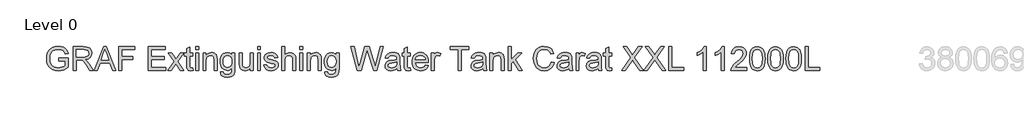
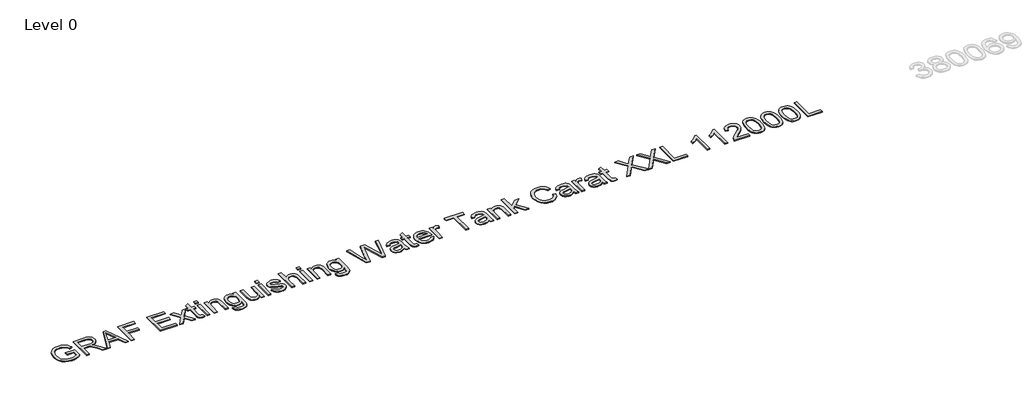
# One storey, part 21 of 37: 1 proxy.
"""IFC4 building model written with IfcOpenShell, lengths in millimetres."""

from ifc_helpers import new_model, si_unit, origin, origin_with_axes, place, context, project, spatial, polyline, outline, extrude, element, save

model = new_model("IFC4")

# Units and contexts
model_context = context("Model", 3, world=origin())
ifc_project = project(units=[si_unit("LENGTHUNIT", "METRE", prefix="MILLI")], contexts=[model_context])

# Site, building, storey
site = spatial("IfcSite", under=ifc_project)
building = spatial("IfcBuilding", under=site)
storey = spatial("IfcBuildingStorey", under=building, Name="Level 0", Elevation=0.0)

# Proxy
placement = place(None, origin())
element("IfcBuildingElementProxy", 1, Name="300mm Arial", ObjectType="300mm Arial", at=placement, inside=storey, context=model_context, shape_type="SweptSolid", body=[
    extrude(outline(polyline([(16759.0059613, -33583.2545597), (16759.0059613, -33545.5834434), (16881.4370893, -33545.5834434), (16881.4370893, -33658.2289103), (16851.6846329, -33678.9222726), (16820.9940775, -33693.7663111), (16789.4389993, -33702.7058436), (16757.0929749, -33705.6856877), (16714.8325307, -33700.949207), (16676.6371825, -33686.739765), (16644.9073605, -33663.5540022), (16622.0434945, -33631.8885595), (16608.2203285, -33593.9047435), (16603.6126065, -33551.7638609), (16608.2019344, -33509.3194757), (16621.9699181, -33469.8365406), (16644.3463404, -33436.717964), (16674.7609844, -33413.3666543), (16711.8067013, -33399.5158972), (16754.0763425, -33394.8989782), (16785.1071888, -33397.5753197), (16813.0110382, -33405.6043443), (16836.5095006, -33418.4066377), (16854.3241862, -33435.4027859), (16867.5035587, -33457.4113262), (16877.0960817, -33485.2507962), (16842.3680214, -33495.0364573), (16834.6149083, -33475.1800266), (16825.1879322, -33460.1980323), (16812.7167326, -33448.9040551), (16795.830949, -33440.1116754), (16775.6986068, -33434.4554897), (16753.4877313, -33432.5700945), (16727.4876713, -33434.6026425), (16705.2584018, -33440.7002866), (16686.8826961, -33450.0996716), (16672.4433278, -33462.0374423), (16653.0559467, -33491.0633317), (16644.2267788, -33519.50061), (16641.2837228, -33550.2187566), (16644.824587, -33586.2436009), (16655.4471796, -33615.8856927), (16672.8296039, -33638.9334997), (16696.6499631, -33655.1754898), (16724.5262213, -33664.804801), (16754.0763425, -33668.0145714), (16780.168373, -33665.5957473), (16805.6166101, -33658.3392749), (16827.7171209, -33648.3420817), (16843.765973, -33637.701095), (16843.765973, -33583.2545597), (16759.0059613, -33583.2545597)])), origin_with_axes(), (0.0, 0.0, 1.0), 10.0),
    extrude(outline(polyline([(16942.6526533, -33700.9767982), (16942.6526533, -33399.6078677), (17072.5149976, -33399.6078677), (17107.4178018, -33401.6404158), (17132.8108566, -33407.7380598), (17151.3705032, -33418.9952489), (17165.7730833, -33436.5064318), (17175.0161185, -33458.2206666), (17178.0971302, -33482.087011), (17172.9927675, -33511.7750881), (17157.6796794, -33536.3863935), (17146.0799003, -33546.4157764), (17131.6980135, -33554.4310054), (17094.5879173, -33564.4190016), (17115.9986494, -33580.532233), (17146.532855, -33619.3069952), (17196.7855355, -33700.9767982), (17153.0075781, -33700.9767982), (17113.7913574, -33638.5104354), (17085.4644438, -33597.1604991), (17065.5620278, -33577.6259652), (17047.6461747, -33570.4522663), (17025.7939842, -33569.1278911), (16980.3237696, -33569.1278911), (16980.3237696, -33700.9767982), (16942.6526533, -33700.9767982)]), holes=[polyline([(16980.3237696, -33531.4567748), (17064.6423229, -33531.4567748), (17088.8581552, -33530.1232026), (17107.6477281, -33526.1224859), (17121.7927908, -33519.1879103), (17132.0750926, -33509.0527613), (17138.3382835, -33496.7930938), (17140.4260139, -33483.4849626), (17136.4436913, -33465.109257), (17124.4967235, -33450.3020067), (17103.941317, -33440.5347397), (17074.1336783, -33437.278984), (16980.3237696, -33437.278984), (16980.3237696, -33531.4567748)])]), origin_with_axes(), (0.0, 0.0, 1.0), 10.0),
    extrude(outline(polyline([(17208.9256414, -33700.9767982), (17329.2230538, -33399.6078677), (17361.3023638, -33399.6078677), (17481.5997762, -33700.9767982), (17441.7949443, -33700.9767982), (17407.2876132, -33606.7990074), (17283.164228, -33606.7990074), (17248.7304732, -33700.9767982), (17208.9256414, -33700.9767982)]), holes=[polyline([(17296.996591, -33569.1278911), (17393.5288265, -33569.1278911), (17366.3791353, -33495.0364573), (17345.2627088, -33437.278984), (17326.500727, -33488.5617342), (17296.996591, -33569.1278911)])]), origin_with_axes(), (0.0, 0.0, 1.0), 10.0),
    extrude(outline(polyline([(17521.8460665, -33700.9767982), (17521.8460665, -33399.6078677), (17724.3283166, -33399.6078677), (17724.3283166, -33437.278984), (17559.5171828, -33437.278984), (17559.5171828, -33526.7478853), (17700.7838689, -33526.7478853), (17700.7838689, -33564.4190016), (17559.5171828, -33564.4190016), (17559.5171828, -33700.9767982), (17521.8460665, -33700.9767982)])), origin_with_axes(), (0.0, 0.0, 1.0), 10.0),
    extrude(outline(polyline([(17893.84834, -33700.9767982), (17893.84834, -33399.6078677), (18110.4572587, -33399.6078677), (18110.4572587, -33437.278984), (17931.5194563, -33437.278984), (17931.5194563, -33526.7478853), (18101.0394797, -33526.7478853), (18101.0394797, -33564.4190016), (17931.5194563, -33564.4190016), (17931.5194563, -33663.3056819), (18115.1661483, -33663.3056819), (18115.1661483, -33700.9767982), (17893.84834, -33700.9767982)])), origin_with_axes(), (0.0, 0.0, 1.0), 10.0),
    extrude(outline(polyline([(18143.4194855, -33700.9767982), (18223.9120661, -33589.7292828), (18148.1283751, -33479.6589899), (18193.4514369, -33479.6589899), (18230.0189072, -33532.6339972), (18247.0886318, -33557.6499729), (18261.877488, -33537.1957339), (18303.5217298, -33479.6589899), (18348.8447916, -33479.6589899), (18269.2351279, -33589.7292828), (18345.9017357, -33700.9767982), (18300.5786739, -33700.9767982), (18254.4462717, -33634.0958515), (18245.9849858, -33621.8821692), (18188.7425473, -33700.9767982), (18143.4194855, -33700.9767982)])), origin_with_axes(), (0.0, 0.0, 1.0), 10.0),
    extrude(outline(polyline([(18458.9150846, -33669.5596758), (18463.6239741, -33702.0804442), (18435.4442133, -33705.6856877), (18417.3628132, -33704.1221892), (18403.8799381, -33699.4316938), (18394.3517944, -33692.2028126), (18388.1345887, -33683.0241568), (18384.7132861, -33667.2604133), (18383.572852, -33640.276269), (18383.572852, -33517.3301062), (18355.3195147, -33517.3301062), (18355.3195147, -33479.6589899), (18383.572852, -33479.6589899), (18383.572852, -33425.8746422), (18421.2439683, -33403.7281461), (18421.2439683, -33479.6589899), (18458.9150846, -33479.6589899), (18458.9150846, -33517.3301062), (18421.2439683, -33517.3301062), (18421.2439683, -33639.172623), (18423.230531, -33658.5967923), (18429.668466, -33665.4761856), (18442.5075476, -33668.0145714), (18458.9150846, -33669.5596758)])), origin_with_axes(), (0.0, 0.0, 1.0), 10.0),
    extrude(outline(polyline([(18496.5862009, -33437.278984), (18496.5862009, -33399.6078677), (18534.2573172, -33399.6078677), (18534.2573172, -33437.278984), (18496.5862009, -33437.278984)])), origin_with_axes(), (0.0, 0.0, 1.0), 10.0),
    extrude(outline(polyline([(18496.5862009, -33700.9767982), (18496.5862009, -33479.6589899), (18534.2573172, -33479.6589899), (18534.2573172, -33700.9767982), (18496.5862009, -33700.9767982)])), origin_with_axes(), (0.0, 0.0, 1.0), 10.0),
    extrude(outline(polyline([(18590.7639916, -33700.9767982), (18590.7639916, -33479.6589899), (18628.435108, -33479.6589899), (18628.435108, -33510.5610775), (18641.5225099, -33494.981275), (18657.2402682, -33483.8528446), (18675.5883827, -33477.1757864), (18696.5668535, -33474.9501003), (18715.1356972, -33476.7435251), (18732.1410424, -33482.1237992), (18746.3228933, -33490.4195382), (18756.4212541, -33500.9593574), (18767.7152313, -33528.6608716), (18769.7017941, -33565.0811892), (18769.7017941, -33700.9767982), (18732.0306778, -33700.9767982), (18732.0306778, -33570.1579607), (18727.6896703, -33536.8278519), (18721.6839967, -33526.9042351), (18712.3489911, -33519.2063044), (18700.3836292, -33514.2674886), (18686.4868868, -33512.6212166), (18664.4231641, -33516.3184307), (18645.6151971, -33527.4100729), (18638.0989081, -33536.4645685), (18632.7301302, -33548.8391991), (18628.435108, -33583.5488653), (18628.435108, -33700.9767982), (18590.7639916, -33700.9767982)])), origin_with_axes(), (0.0, 0.0, 1.0), 10.0),
    extrude(outline(polyline([(18812.0817999, -33719.8123563), (18849.7529163, -33724.5212459), (18853.9099828, -33736.2934697), (18861.9665985, -33744.3868736), (18877.8039184, -33750.6776557), (18898.5340688, -33752.7745831), (18920.6437767, -33750.4017442), (18937.0881019, -33743.2832276), (18948.4924438, -33731.8788858), (18955.4822017, -33716.6485712), (18958.0573756, -33672.7234609), (18945.5217966, -33685.084296), (18931.5330838, -33693.9134639), (18916.091237, -33699.2109646), (18899.1962564, -33700.9767982), (18878.5419816, -33698.9212575), (18860.3571148, -33692.7546356), (18844.6416558, -33682.4769323), (18831.3956047, -33668.0881478), (18820.8856759, -33650.8252852), (18813.378584, -33631.9253477), (18808.8743288, -33611.3883353), (18807.3729104, -33589.214248), (18810.067646, -33558.7996041), (18818.1518529, -33530.8313754), (18831.3404224, -33507.1305779), (18849.3482461, -33489.5182274), (18871.5591215, -33478.5921321), (18897.3568464, -33474.9501003), (18914.9737955, -33477.0102395), (18930.9628667, -33483.190657), (18945.3240601, -33493.4913529), (18958.0573756, -33507.9123271), (18958.0573756, -33479.6589899), (18995.7284919, -33479.6589899), (18995.7284919, -33670.7368982), (18993.153318, -33714.8551464), (18985.4277961, -33743.908627), (18972.1196649, -33763.1764465), (18952.7966631, -33777.9377116), (18927.881855, -33787.3187024), (18897.7983048, -33790.4456994), (18862.7483477, -33786.0403125), (18835.148001, -33772.8241518), (18824.7530354, -33762.9028343), (18817.44368, -33750.7604292), (18813.2199349, -33736.3969365), (18812.0817999, -33719.8123563)]), holes=[polyline([(18845.0440267, -33586.6390741), (18849.0631375, -33621.1923905), (18861.1204699, -33644.9483703), (18879.2478552, -33658.716354), (18901.4771248, -33663.3056819), (18923.5408474, -33658.7439451), (18941.7602032, -33645.0587349), (18953.9830825, -33621.6062577), (18958.0573756, -33587.7427201), (18953.8635209, -33555.0839959), (18941.2819567, -33531.5671394), (18922.7958864, -33517.3576973), (18900.8885136, -33512.6212166), (18879.3766139, -33517.2841209), (18861.3411991, -33531.2728338), (18849.1183198, -33554.4402024), (18845.0440267, -33586.6390741)])]), origin_with_axes(), (0.0, 0.0, 1.0), 10.0),
    extrude(outline(polyline([(19193.5018525, -33700.9767982), (19193.5018525, -33662.9377999), (19179.8718246, -33681.6400008), (19163.9977165, -33694.9987158), (19145.8795283, -33703.0139447), (19125.5172598, -33705.6856877), (19107.1691453, -33703.8094895), (19090.0902237, -33698.180895), (19075.76122, -33689.7196091), (19065.6628592, -33679.3453369), (19054.4424584, -33651.6070344), (19052.2351664, -33616.5846685), (19052.2351664, -33479.6589899), (19089.9062827, -33479.6589899), (19089.9062827, -33598.8527563), (19092.1871511, -33637.2596366), (19097.6777899, -33650.0711271), (19107.0863719, -33659.8108029), (19119.7874978, -33665.9636293), (19135.1557681, -33668.0145714), (19151.4069552, -33665.917644), (19166.6096787, -33659.6268619), (19179.1452577, -33649.7216392), (19187.3950114, -33636.78139), (19191.9751423, -33619.0586749), (19193.5018525, -33594.8060544), (19193.5018525, -33479.6589899), (19231.1729689, -33479.6589899), (19231.1729689, -33700.9767982), (19193.5018525, -33700.9767982)])), origin_with_axes(), (0.0, 0.0, 1.0), 10.0),
    extrude(outline(polyline([(19282.9707538, -33437.278984), (19282.9707538, -33399.6078677), (19320.6418701, -33399.6078677), (19320.6418701, -33437.278984), (19282.9707538, -33437.278984)])), origin_with_axes(), (0.0, 0.0, 1.0), 10.0),
    extrude(outline(polyline([(19282.9707538, -33700.9767982), (19282.9707538, -33479.6589899), (19320.6418701, -33479.6589899), (19320.6418701, -33700.9767982), (19282.9707538, -33700.9767982)])), origin_with_axes(), (0.0, 0.0, 1.0), 10.0),
    extrude(outline(polyline([(19363.0218759, -33635.0523446), (19400.6929922, -33630.3434551), (19406.6342865, -33646.4566865), (19418.1305988, -33658.3024867), (19435.2555057, -33665.5865502), (19458.0825835, -33668.0145714), (19480.6337498, -33665.7888853), (19496.4894638, -33659.1118271), (19505.8704547, -33649.4365307), (19508.9974516, -33638.2161298), (19505.8520606, -33628.6144097), (19496.4158874, -33621.293558), (19457.6411251, -33610.5514038), (19400.9137214, -33592.1205158), (19386.5571266, -33582.8590866), (19376.1552632, -33570.5994191), (19369.8368899, -33556.1232626), (19367.7307655, -33540.2123663), (19369.4230226, -33525.6166481), (19374.4997942, -33512.1429701), (19382.5012276, -33500.324761), (19392.9674703, -33490.6954497), (19416.9165882, -33479.5486253), (19449.326992, -33474.9501003), (19473.846327, -33476.7987074), (19495.1650886, -33482.3445284), (19512.3083896, -33491.0449376), (19524.3013426, -33502.357309), (19532.2475937, -33517.118574), (19537.2507888, -33536.1656643), (19499.5796725, -33540.8745539), (19494.8247977, -33529.0195566), (19485.4162157, -33520.0892211), (19471.261956, -33514.4882178), (19452.270048, -33512.6212166), (19430.6385866, -33514.4054443), (19416.2176124, -33519.7581274), (19408.1058144, -33527.4836493), (19405.4018818, -33536.3863935), (19409.8900421, -33547.349277), (19423.9431343, -33555.6634101), (19456.3903263, -33563.6832376), (19511.6829902, -33581.4151497), (19526.2879054, -33589.8948297), (19537.3611534, -33601.5015067), (19544.3417143, -33616.2719688), (19546.6685679, -33634.2430043), (19543.9370441, -33652.821045), (19535.7424727, -33670.2954398), (19522.3975533, -33685.2958281), (19504.2149857, -33696.4518496), (19482.2524306, -33703.3772282), (19457.5675487, -33705.6856877), (19419.5837327, -33701.2343156), (19391.8638243, -33687.8801992), (19373.35936, -33665.7704912), (19363.0218759, -33635.0523446)])), origin_with_axes(), (0.0, 0.0, 1.0), 10.0),
    extrude(outline(polyline([(19589.0485738, -33700.9767982), (19589.0485738, -33399.6078677), (19626.7196901, -33399.6078677), (19626.7196901, -33510.4139247), (19640.5566516, -33494.8985015), (19656.0950674, -33483.8160564), (19673.3349374, -33477.1665894), (19692.2762616, -33474.9501003), (19715.029763, -33477.3689245), (19734.5826911, -33484.6253968), (19749.9785526, -33496.1493003), (19760.2608543, -33511.3704179), (19766.0549957, -33532.2845093), (19767.9863762, -33560.8873344), (19767.9863762, -33700.9767982), (19730.3152599, -33700.9767982), (19730.3152599, -33564.7868836), (19727.3170216, -33541.2056477), (19718.3223069, -33525.0556281), (19703.8277563, -33515.7298195), (19684.3300105, -33512.6212166), (19668.4099172, -33514.718144), (19653.4647111, -33521.0089261), (19641.085482, -33530.8865577), (19632.8633194, -33543.7440334), (19628.2555974, -33560.8321521), (19626.7196901, -33583.4017125), (19626.7196901, -33700.9767982), (19589.0485738, -33700.9767982)])), origin_with_axes(), (0.0, 0.0, 1.0), 10.0),
    extrude(outline(polyline([(19819.7841611, -33437.278984), (19819.7841611, -33399.6078677), (19857.4552774, -33399.6078677), (19857.4552774, -33437.278984), (19819.7841611, -33437.278984)])), origin_with_axes(), (0.0, 0.0, 1.0), 10.0),
    extrude(outline(polyline([(19819.7841611, -33700.9767982), (19819.7841611, -33479.6589899), (19857.4552774, -33479.6589899), (19857.4552774, -33700.9767982), (19819.7841611, -33700.9767982)])), origin_with_axes(), (0.0, 0.0, 1.0), 10.0),
    extrude(outline(polyline([(19913.9619519, -33700.9767982), (19913.9619519, -33479.6589899), (19951.6330682, -33479.6589899), (19951.6330682, -33510.5610775), (19964.7204702, -33494.981275), (19980.4382284, -33483.8528446), (19998.7863429, -33477.1757864), (20019.7648137, -33474.9501003), (20038.3336574, -33476.7435251), (20055.3390026, -33482.1237992), (20069.5208536, -33490.4195382), (20079.6192143, -33500.9593574), (20090.9131916, -33528.6608716), (20092.8997544, -33565.0811892), (20092.8997544, -33700.9767982), (20055.228638, -33700.9767982), (20055.228638, -33570.1579607), (20050.8876305, -33536.8278519), (20044.8819569, -33526.9042351), (20035.5469513, -33519.2063044), (20023.5815894, -33514.2674886), (20009.684847, -33512.6212166), (19987.6211244, -33516.3184307), (19968.8131574, -33527.4100729), (19961.2968684, -33536.4645685), (19955.9280905, -33548.8391991), (19951.6330682, -33583.5488653), (19951.6330682, -33700.9767982), (19913.9619519, -33700.9767982)])), origin_with_axes(), (0.0, 0.0, 1.0), 10.0),
    extrude(outline(polyline([(20135.2797602, -33719.8123563), (20172.9508765, -33724.5212459), (20177.1079431, -33736.2934697), (20185.1645587, -33744.3868736), (20201.0018786, -33750.6776557), (20221.7320291, -33752.7745831), (20243.841737, -33750.4017442), (20260.2860622, -33743.2832276), (20271.690404, -33731.8788858), (20278.6801619, -33716.6485712), (20281.2553359, -33672.7234609), (20268.7197569, -33685.084296), (20254.731044, -33693.9134639), (20239.2891973, -33699.2109646), (20222.3942167, -33700.9767982), (20201.7399419, -33698.9212575), (20183.555075, -33692.7546356), (20167.839616, -33682.4769323), (20154.5935649, -33668.0881478), (20144.0836362, -33650.8252852), (20136.5765442, -33631.9253477), (20132.0722891, -33611.3883353), (20130.5708707, -33589.214248), (20133.2656063, -33558.7996041), (20141.3498131, -33530.8313754), (20154.5383826, -33507.1305779), (20172.5462063, -33489.5182274), (20194.7570818, -33478.5921321), (20220.5548067, -33474.9501003), (20238.1717557, -33477.0102395), (20254.1608269, -33483.190657), (20268.5220203, -33493.4913529), (20281.2553359, -33507.9123271), (20281.2553359, -33479.6589899), (20318.9264522, -33479.6589899), (20318.9264522, -33670.7368982), (20316.3512782, -33714.8551464), (20308.6257563, -33743.908627), (20295.3176252, -33763.1764465), (20275.9946234, -33777.9377116), (20251.0798152, -33787.3187024), (20220.9962651, -33790.4456994), (20185.946308, -33786.0403125), (20158.3459613, -33772.8241518), (20147.9509957, -33762.9028343), (20140.6416403, -33750.7604292), (20136.4178951, -33736.3969365), (20135.2797602, -33719.8123563)]), holes=[polyline([(20168.241987, -33586.6390741), (20172.2610978, -33621.1923905), (20184.3184302, -33644.9483703), (20202.4458155, -33658.716354), (20224.675085, -33663.3056819), (20246.7388077, -33658.7439451), (20264.9581635, -33645.0587349), (20277.1810428, -33621.6062577), (20281.2553359, -33587.7427201), (20277.0614811, -33555.0839959), (20264.4799169, -33531.5671394), (20245.9938466, -33517.3576973), (20224.0864738, -33512.6212166), (20202.5745742, -33517.2841209), (20184.5391594, -33531.2728338), (20172.3162801, -33554.4402024), (20168.241987, -33586.6390741)])]), origin_with_axes(), (0.0, 0.0, 1.0), 10.0),
    extrude(outline(polyline([(20551.7957551, -33700.9767982), (20469.6109174, -33399.6078677), (20508.4592561, -33399.6078677), (20556.1367627, -33597.6755339), (20570.8520425, -33658.8175215), (20586.5973919, -33604.7388682), (20646.3414279, -33399.6078677), (20702.3330676, -33399.6078677), (20745.743143, -33548.3057702), (20764.3395779, -33603.4880695), (20778.0431822, -33658.8175215), (20792.3170036, -33599.4413675), (20840.4359686, -33399.6078677), (20879.2843072, -33399.6078677), (20797.0258931, -33700.9767982), (20756.7796029, -33700.9767982), (20684.527579, -33468.4753772), (20674.4476123, -33436.0281853), (20663.1168469, -33475.0972531), (20597.2659697, -33700.9767982), (20551.7957551, -33700.9767982)])), origin_with_axes(), (0.0, 0.0, 1.0), 10.0),
    extrude(outline(polyline([(21053.5132202, -33672.7234609), (21035.5145935, -33688.1561106), (21016.982538, -33698.2544714), (20997.4939893, -33703.8278836), (20976.6258832, -33705.6856877), (20945.1443814, -33701.2159215), (20921.9218305, -33687.8066228), (20907.6020238, -33667.4443543), (20902.8287549, -33642.115679), (20904.6313767, -33626.4990883), (20910.039242, -33612.3172373), (20918.3809663, -33600.1771315), (20928.9851648, -33590.685776), (20955.3623038, -33578.324941), (20987.9566486, -33572.6595583), (21026.4738935, -33566.6998699), (21053.292491, -33559.710112), (21053.5132202, -33551.3224025), (21050.9196521, -33534.5101954), (21043.1389479, -33523.5105237), (21025.7381295, -33515.3435434), (21001.494706, -33512.6212166), (20979.0539043, -33514.4330355), (20963.3821313, -33519.868492), (20952.6951594, -33529.9208675), (20945.2087608, -33545.5834434), (20907.5376445, -33540.8745539), (20914.0767469, -33520.2731621), (20923.8348169, -33504.0863544), (20937.7223622, -33491.7071252), (20956.6498908, -33482.5284694), (20979.7988654, -33476.8446926), (21006.3507484, -33474.9501003), (21031.8173795, -33476.6239634), (21052.004904, -33481.6455527), (21067.2260215, -33489.1963306), (21077.7934318, -33498.4577598), (21084.8015838, -33509.9080869), (21089.3449265, -33524.0255585), (21091.1843365, -33556.9877853), (21091.1843365, -33603.8559515), (21093.0973228, -33669.3021584), (21100.6021155, -33700.9767982), (21062.9309992, -33700.9767982), (21053.5132202, -33672.7234609)]), holes=[polyline([(21053.5132202, -33597.3812283), (20992.7391146, -33608.932723), (20960.3287108, -33615.0395641), (20945.6502192, -33624.972378), (20940.4998712, -33639.4669286), (20943.3049715, -33650.6689353), (20951.7202721, -33659.8475911), (20965.5618322, -33665.9728263), (20984.6457107, -33668.0145714), (21004.8792204, -33665.7612942), (21022.7582854, -33659.0014625), (21037.252836, -33649.0410575), (21047.3328026, -33637.1860602), (21051.8025689, -33624.972378), (21053.292491, -33608.0498062), (21053.5132202, -33597.3812283)])]), origin_with_axes(), (0.0, 0.0, 1.0), 10.0),
    extrude(outline(polyline([(21223.0332435, -33669.5596758), (21227.7421331, -33702.0804442), (21199.5623722, -33705.6856877), (21181.4809722, -33704.1221892), (21167.9980971, -33699.4316938), (21158.4699534, -33692.2028126), (21152.2527477, -33683.0241568), (21148.8314451, -33667.2604133), (21147.6910109, -33640.276269), (21147.6910109, -33517.3301062), (21119.4376737, -33517.3301062), (21119.4376737, -33479.6589899), (21147.6910109, -33479.6589899), (21147.6910109, -33425.8746422), (21185.3621272, -33403.7281461), (21185.3621272, -33479.6589899), (21223.0332435, -33479.6589899), (21223.0332435, -33517.3301062), (21185.3621272, -33517.3301062), (21185.3621272, -33639.172623), (21187.34869, -33658.5967923), (21193.7866249, -33665.4761856), (21206.6257066, -33668.0145714), (21223.0332435, -33669.5596758)])), origin_with_axes(), (0.0, 0.0, 1.0), 10.0),
    extrude(outline(polyline([(21415.6562562, -33635.0523446), (21452.5916085, -33639.7612342), (21439.2834774, -33667.5915071), (21418.0474892, -33688.3952339), (21389.3618906, -33701.3630743), (21353.7049282, -33705.6856877), (21330.330626, -33703.8209859), (21309.5039065, -33698.2268803), (21291.2247699, -33688.9033709), (21275.493216, -33675.8504579), (21262.8426739, -33659.4314246), (21253.8065724, -33640.0095545), (21248.3849115, -33617.5848477), (21246.5776912, -33592.157304), (21248.4033056, -33565.8675369), (21253.8801488, -33542.6955698), (21263.0082208, -33522.6414025), (21275.7875216, -33505.7050351), (21291.4776887, -33492.2497512), (21309.3383596, -33482.638834), (21329.3695342, -33476.8722838), (21351.5712127, -33474.9501003), (21373.0578204, -33476.8676852), (21392.4888876, -33482.6204399), (21409.8644141, -33492.2083644), (21425.1843999, -33505.6314587), (21437.6900885, -33522.5310379), (21446.6227232, -33542.548417), (21451.982304, -33565.6835959), (21453.7688309, -33591.9365748), (21453.5481017, -33602.0901179), (21284.2488075, -33602.0901179), (21290.7695159, -33630.2882728), (21305.9170571, -33651.0184232), (21327.7784446, -33663.7655344), (21354.4406922, -33668.0145714), (21374.490261, -33666.0464027), (21391.3760445, -33660.1418967), (21405.098043, -33649.9331713), (21415.6562562, -33635.0523446)]), holes=[polyline([(21284.2488075, -33564.4190016), (21416.0977146, -33564.4190016), (21411.002549, -33544.5165856), (21401.0145528, -33530.2795524), (21379.0519977, -33517.0358006), (21351.4240599, -33512.6212166), (21326.0310051, -33516.1436868), (21305.0341403, -33526.7110971), (21290.4384221, -33543.1830134), (21284.2488075, -33564.4190016)])]), origin_with_axes(), (0.0, 0.0, 1.0), 10.0),
    extrude(outline(polyline([(21491.4399472, -33700.9767982), (21491.4399472, -33479.6589899), (21524.402174, -33479.6589899), (21524.402174, -33512.4004875), (21536.579068, -33493.4177765), (21547.7994689, -33482.2341638), (21559.0566579, -33476.7711162), (21571.3439166, -33474.9501003), (21590.1058983, -33477.8563681), (21609.1621857, -33486.5751714), (21596.5806214, -33520.3467385), (21583.3368696, -33514.5525971), (21570.0931178, -33512.6212166), (21558.8451258, -33514.4790207), (21548.7927503, -33520.052433), (21540.6717552, -33528.918389), (21535.2179046, -33540.6538247), (21530.6377738, -33561.6966748), (21529.1110635, -33584.6525113), (21529.1110635, -33700.9767982), (21491.4399472, -33700.9767982)])), origin_with_axes(), (0.0, 0.0, 1.0), 10.0),
    extrude(outline(polyline([(21830.479994, -33700.9767982), (21830.479994, -33437.278984), (21731.5933137, -33437.278984), (21731.5933137, -33399.6078677), (21967.0377906, -33399.6078677), (21967.0377906, -33437.278984), (21868.1511103, -33437.278984), (21868.1511103, -33700.9767982), (21830.479994, -33700.9767982)])), origin_with_axes(), (0.0, 0.0, 1.0), 10.0),
    extrude(outline(polyline([(22145.975593, -33672.7234609), (22127.9769664, -33688.1561106), (22109.4449109, -33698.2544714), (22089.9563622, -33703.8278836), (22069.088256, -33705.6856877), (22037.6067543, -33701.2159215), (22014.3842034, -33687.8066228), (22000.0643967, -33667.4443543), (21995.2911278, -33642.115679), (21997.0937496, -33626.4990883), (22002.5016149, -33612.3172373), (22010.8433392, -33600.1771315), (22021.4475377, -33590.685776), (22047.8246767, -33578.324941), (22080.4190215, -33572.6595583), (22118.9362664, -33566.6998699), (22145.7548638, -33559.710112), (22145.975593, -33551.3224025), (22143.382025, -33534.5101954), (22135.6013208, -33523.5105237), (22118.2005024, -33515.3435434), (22093.9570789, -33512.6212166), (22071.5162772, -33514.4330355), (22055.8445042, -33519.868492), (22045.1575323, -33529.9208675), (22037.6711337, -33545.5834434), (22000.0000174, -33540.8745539), (22006.5391198, -33520.2731621), (22016.2971897, -33504.0863544), (22030.1847351, -33491.7071252), (22049.1122637, -33482.5284694), (22072.2612383, -33476.8446926), (22098.8131213, -33474.9501003), (22124.2797524, -33476.6239634), (22144.4672769, -33481.6455527), (22159.6883944, -33489.1963306), (22170.2558047, -33498.4577598), (22177.2639567, -33509.9080869), (22181.8072994, -33524.0255585), (22183.6467093, -33556.9877853), (22183.6467093, -33603.8559515), (22185.5596957, -33669.3021584), (22193.0644884, -33700.9767982), (22155.3933721, -33700.9767982), (22145.975593, -33672.7234609)]), holes=[polyline([(22145.975593, -33597.3812283), (22085.2014874, -33608.932723), (22052.7910837, -33615.0395641), (22038.1125921, -33624.972378), (22032.9622441, -33639.4669286), (22035.7673443, -33650.6689353), (22044.182645, -33659.8475911), (22058.024205, -33665.9728263), (22077.1080835, -33668.0145714), (22097.3415933, -33665.7612942), (22115.2206582, -33659.0014625), (22129.7152089, -33649.0410575), (22139.7951755, -33637.1860602), (22144.2649418, -33624.972378), (22145.7548638, -33608.0498062), (22145.975593, -33597.3812283)])]), origin_with_axes(), (0.0, 0.0, 1.0), 10.0),
    extrude(outline(polyline([(22235.4444943, -33700.9767982), (22235.4444943, -33479.6589899), (22273.1156106, -33479.6589899), (22273.1156106, -33510.5610775), (22286.2030125, -33494.981275), (22301.9207708, -33483.8528446), (22320.2688853, -33477.1757864), (22341.2473561, -33474.9501003), (22359.8161998, -33476.7435251), (22376.821545, -33482.1237992), (22391.0033959, -33490.4195382), (22401.1017567, -33500.9593574), (22412.3957339, -33528.6608716), (22414.3822967, -33565.0811892), (22414.3822967, -33700.9767982), (22376.7111804, -33700.9767982), (22376.7111804, -33570.1579607), (22372.3701729, -33536.8278519), (22366.3644993, -33526.9042351), (22357.0294937, -33519.2063044), (22345.0641318, -33514.2674886), (22331.1673894, -33512.6212166), (22309.1036667, -33516.3184307), (22290.2956997, -33527.4100729), (22282.7794107, -33536.4645685), (22277.4106329, -33548.8391991), (22273.1156106, -33583.5488653), (22273.1156106, -33700.9767982), (22235.4444943, -33700.9767982)])), origin_with_axes(), (0.0, 0.0, 1.0), 10.0),
    extrude(outline(polyline([(22466.1800816, -33700.9767982), (22466.1800816, -33399.6078677), (22503.8511979, -33399.6078677), (22503.8511979, -33561.549522), (22588.316904, -33479.6589899), (22640.4089946, -33479.6589899), (22554.9132189, -33562.5795916), (22645.1178841, -33700.9767982), (22601.1191975, -33700.9767982), (22527.9106804, -33588.7727896), (22503.8511979, -33612.0965081), (22503.8511979, -33700.9767982), (22466.1800816, -33700.9767982)])), origin_with_axes(), (0.0, 0.0, 1.0), 10.0),
    extrude(outline(polyline([(23012.4112681, -33593.8495612), (23050.0823844, -33603.5616459), (23042.6281755, -33626.9888312), (23032.6999601, -33647.4591649), (23020.2977383, -33664.9726472), (23005.4215102, -33679.5292779), (22988.4069679, -33690.9727072), (22969.5898038, -33699.1465853), (22948.970018, -33704.0509121), (22926.5476104, -33705.6856877), (22882.8524264, -33700.7376749), (22848.1519572, -33685.8936364), (22821.554089, -33661.668607), (22802.1667078, -33628.5776215), (22790.3301046, -33589.6741005), (22786.3845702, -33548.0114646), (22790.8451394, -33504.0679603), (22804.226847, -33466.1209325), (22825.8307172, -33435.3751947), (22854.9577741, -33413.0355606), (22889.5018935, -33399.4331238), (22927.3569508, -33394.8989782), (22968.6609018, -33400.766696), (22986.629638, -33408.1013433), (23002.809548, -33418.3698495), (23016.9339174, -33431.3009016), (23028.7360316, -33446.6231867), (23045.3734948, -33484.4414558), (23007.7023785, -33493.4177765), (22994.6425677, -33465.9461885), (22976.8002909, -33447.1014333), (22953.954819, -33436.2029292), (22925.8854228, -33432.5700945), (22893.5302013, -33436.5984023), (22866.9507272, -33448.6833259), (22846.7815968, -33467.5556722), (22833.6574066, -33491.9462485), (22826.4561166, -33519.5190041), (22824.0556865, -33547.9378882), (22826.897575, -33582.7395249), (22835.4232402, -33612.8322721), (22849.954579, -33637.0664986), (22870.8134881, -33654.292573), (22895.8202668, -33664.5840718), (22922.7952141, -33668.0145714), (22954.2399276, -33663.3424701), (22980.4423227, -33649.3261661), (23000.225177, -33626.1128122), (23012.4112681, -33593.8495612)])), origin_with_axes(), (0.0, 0.0, 1.0), 10.0),
    extrude(outline(polyline([(23238.4379659, -33672.7234609), (23220.4393393, -33688.1561106), (23201.9072838, -33698.2544714), (23182.4187351, -33703.8278836), (23161.5506289, -33705.6856877), (23130.0691272, -33701.2159215), (23106.8465762, -33687.8066228), (23092.5267696, -33667.4443543), (23087.7535007, -33642.115679), (23089.5561225, -33626.4990883), (23094.9639878, -33612.3172373), (23103.305712, -33600.1771315), (23113.9099105, -33590.685776), (23140.2870496, -33578.324941), (23172.8813944, -33572.6595583), (23211.3986393, -33566.6998699), (23238.2172367, -33559.710112), (23238.4379659, -33551.3224025), (23235.8443978, -33534.5101954), (23228.0636936, -33523.5105237), (23210.6628753, -33515.3435434), (23186.4194518, -33512.6212166), (23163.9786501, -33514.4330355), (23148.3068771, -33519.868492), (23137.6199051, -33529.9208675), (23130.1335065, -33545.5834434), (23092.4623902, -33540.8745539), (23099.0014927, -33520.2731621), (23108.7595626, -33504.0863544), (23122.6471079, -33491.7071252), (23141.5746366, -33482.5284694), (23164.7236111, -33476.8446926), (23191.2754941, -33474.9501003), (23216.7421252, -33476.6239634), (23236.9296497, -33481.6455527), (23252.1507673, -33489.1963306), (23262.7181776, -33498.4577598), (23269.7263296, -33509.9080869), (23274.2696722, -33524.0255585), (23276.1090822, -33556.9877853), (23276.1090822, -33603.8559515), (23278.0220686, -33669.3021584), (23285.5268613, -33700.9767982), (23247.855745, -33700.9767982), (23238.4379659, -33672.7234609)]), holes=[polyline([(23238.4379659, -33597.3812283), (23177.6638603, -33608.932723), (23145.2534565, -33615.0395641), (23130.5749649, -33624.972378), (23125.424617, -33639.4669286), (23128.2297172, -33650.6689353), (23136.6450178, -33659.8475911), (23150.4865779, -33665.9728263), (23169.5704564, -33668.0145714), (23189.8039662, -33665.7612942), (23207.6830311, -33659.0014625), (23222.1775817, -33649.0410575), (23232.2575484, -33637.1860602), (23236.7273146, -33624.972378), (23238.2172367, -33608.0498062), (23238.4379659, -33597.3812283)])]), origin_with_axes(), (0.0, 0.0, 1.0), 10.0),
    extrude(outline(polyline([(23327.9068671, -33700.9767982), (23327.9068671, -33479.6589899), (23360.8690939, -33479.6589899), (23360.8690939, -33512.4004875), (23373.0459879, -33493.4177765), (23384.2663888, -33482.2341638), (23395.5235779, -33476.7711162), (23407.8108365, -33474.9501003), (23426.5728182, -33477.8563681), (23445.6291056, -33486.5751714), (23433.0475414, -33520.3467385), (23419.8037895, -33514.5525971), (23406.5600377, -33512.6212166), (23395.3120457, -33514.4790207), (23385.2596702, -33520.052433), (23377.1386751, -33528.918389), (23371.6848246, -33540.6538247), (23367.1046937, -33561.6966748), (23365.5779834, -33584.6525113), (23365.5779834, -33700.9767982), (23327.9068671, -33700.9767982)])), origin_with_axes(), (0.0, 0.0, 1.0), 10.0),
    extrude(outline(polyline([(23610.4402394, -33672.7234609), (23592.4416128, -33688.1561106), (23573.9095573, -33698.2544714), (23554.4210086, -33703.8278836), (23533.5529024, -33705.6856877), (23502.0714007, -33701.2159215), (23478.8488498, -33687.8066228), (23464.5290431, -33667.4443543), (23459.7557742, -33642.115679), (23461.558396, -33626.4990883), (23466.9662613, -33612.3172373), (23475.3079856, -33600.1771315), (23485.9121841, -33590.685776), (23512.2893231, -33578.324941), (23544.8836679, -33572.6595583), (23583.4009128, -33566.6998699), (23610.2195102, -33559.710112), (23610.4402394, -33551.3224025), (23607.8466714, -33534.5101954), (23600.0659672, -33523.5105237), (23582.6651488, -33515.3435434), (23558.4217253, -33512.6212166), (23535.9809236, -33514.4330355), (23520.3091506, -33519.868492), (23509.6221787, -33529.9208675), (23502.1357801, -33545.5834434), (23464.4646638, -33540.8745539), (23471.0037662, -33520.2731621), (23480.7618361, -33504.0863544), (23494.6493815, -33491.7071252), (23513.5769101, -33482.5284694), (23536.7258847, -33476.8446926), (23563.2777677, -33474.9501003), (23588.7443988, -33476.6239634), (23608.9319233, -33481.6455527), (23624.1530408, -33489.1963306), (23634.7204511, -33498.4577598), (23641.7286031, -33509.9080869), (23646.2719458, -33524.0255585), (23648.1113557, -33556.9877853), (23648.1113557, -33603.8559515), (23650.0243421, -33669.3021584), (23657.5291348, -33700.9767982), (23619.8580185, -33700.9767982), (23610.4402394, -33672.7234609)]), holes=[polyline([(23610.4402394, -33597.3812283), (23549.6661338, -33608.932723), (23517.2557301, -33615.0395641), (23502.5772385, -33624.972378), (23497.4268905, -33639.4669286), (23500.2319907, -33650.6689353), (23508.6472914, -33659.8475911), (23522.4888514, -33665.9728263), (23541.5727299, -33668.0145714), (23561.8062397, -33665.7612942), (23579.6853046, -33659.0014625), (23594.1798552, -33649.0410575), (23604.2598219, -33637.1860602), (23608.7295882, -33624.972378), (23610.2195102, -33608.0498062), (23610.4402394, -33597.3812283)])]), origin_with_axes(), (0.0, 0.0, 1.0), 10.0),
    extrude(outline(polyline([(23779.9602628, -33669.5596758), (23784.6691524, -33702.0804442), (23756.4893915, -33705.6856877), (23738.4079915, -33704.1221892), (23724.9251163, -33699.4316938), (23715.3969727, -33692.2028126), (23709.1797669, -33683.0241568), (23705.7584644, -33667.2604133), (23704.6180302, -33640.276269), (23704.6180302, -33517.3301062), (23676.364693, -33517.3301062), (23676.364693, -33479.6589899), (23704.6180302, -33479.6589899), (23704.6180302, -33425.8746422), (23742.2891465, -33403.7281461), (23742.2891465, -33479.6589899), (23779.9602628, -33479.6589899), (23779.9602628, -33517.3301062), (23742.2891465, -33517.3301062), (23742.2891465, -33639.172623), (23744.2757093, -33658.5967923), (23750.7136442, -33665.4761856), (23763.5527258, -33668.0145714), (23779.9602628, -33669.5596758)])), origin_with_axes(), (0.0, 0.0, 1.0), 10.0),
    extrude(outline(polyline([(23907.1002803, -33700.9767982), (24023.2774144, -33536.7542755), (23925.9358385, -33399.6078677), (23971.1117475, -33399.6078677), (24025.9261648, -33476.7895103), (24044.3938409, -33506.8822575), (24066.0253023, -33476.2744755), (24120.2511084, -33399.6078677), (24166.089205, -33399.6078677), (24068.747629, -33537.1957339), (24184.9247631, -33700.9767982), (24139.7488541, -33700.9767982), (24062.3464823, -33591.789422), (24046.2332509, -33569.1278911), (24028.5013388, -33593.996714), (23952.9383769, -33700.9767982), (23907.1002803, -33700.9767982)])), origin_with_axes(), (0.0, 0.0, 1.0), 10.0),
    extrude(outline(polyline([(24189.6336526, -33700.9767982), (24305.8107867, -33536.7542755), (24208.4692108, -33399.6078677), (24253.6451198, -33399.6078677), (24308.4595371, -33476.7895103), (24326.9272132, -33506.8822575), (24348.5586746, -33476.2744755), (24402.7844806, -33399.6078677), (24448.6225772, -33399.6078677), (24351.2810013, -33537.1957339), (24467.4581354, -33700.9767982), (24422.2822264, -33700.9767982), (24344.8798546, -33591.789422), (24328.7666232, -33569.1278911), (24311.0347111, -33593.996714), (24235.4717492, -33700.9767982), (24189.6336526, -33700.9767982)])), origin_with_axes(), (0.0, 0.0, 1.0), 10.0),
    extrude(outline(polyline([(24505.1292517, -33700.9767982), (24505.1292517, -33399.6078677), (24542.800368, -33399.6078677), (24542.800368, -33663.3056819), (24693.4848332, -33663.3056819), (24693.4848332, -33700.9767982), (24505.1292517, -33700.9767982)])), origin_with_axes(), (0.0, 0.0, 1.0), 10.0),
    extrude(outline(polyline([(24980.7270951, -33700.9767982), (24943.0559788, -33700.9767982), (24943.0559788, -33466.1209325), (24907.3714252, -33491.5415783), (24867.7137462, -33510.5610775), (24867.7137462, -33474.9501003), (24897.3006556, -33458.8552631), (24922.9328336, -33439.7070052), (24943.1387522, -33419.3447368), (24956.4468834, -33399.6078677), (24980.7270951, -33399.6078677), (24980.7270951, -33700.9767982)])), origin_with_axes(), (0.0, 0.0, 1.0), 10.0),
    extrude(outline(polyline([(25211.4626824, -33700.9767982), (25173.7915661, -33700.9767982), (25173.7915661, -33466.1209325), (25138.1070126, -33491.5415783), (25098.4493335, -33510.5610775), (25098.4493335, -33474.9501003), (25128.036243, -33458.8552631), (25153.668421, -33439.7070052), (25173.8743396, -33419.3447368), (25187.1824708, -33399.6078677), (25211.4626824, -33399.6078677), (25211.4626824, -33700.9767982)])), origin_with_axes(), (0.0, 0.0, 1.0), 10.0),
    extrude(outline(polyline([(25493.9960547, -33663.3056819), (25493.9960547, -33700.9767982), (25296.2226941, -33700.9767982), (25300.2693961, -33675.0043293), (25309.5584165, -33654.7064402), (25323.1516562, -33635.0155564), (25342.8149488, -33614.4049677), (25370.314128, -33591.3479636), (25410.9650884, -33555.2403458), (25435.3556647, -33528.5872952), (25447.5509529, -33506.9558339), (25451.6160489, -33485.9129838), (25447.7808791, -33467.0498345), (25436.2753697, -33451.3688645), (25418.5894428, -33440.8014541), (25396.2130204, -33437.278984), (25372.714558, -33440.7186807), (25354.458414, -33451.0377707), (25342.6769931, -33467.4269135), (25338.6027, -33489.076769), (25300.9315837, -33484.3678794), (25310.0642542, -33447.9291678), (25318.6106128, -33433.3932305), (25329.8103203, -33421.3129054), (25343.4058593, -33411.8169514), (25359.1397124, -33405.0341272), (25397.0223608, -33399.6078677), (25417.2121846, -33401.1161839), (25435.1809208, -33405.6411325), (25450.9285694, -33413.1827134), (25464.4551305, -33423.7409266), (25475.3191457, -33436.534023), (25483.0791565, -33450.7802533), (25487.735163, -33466.4796174), (25489.2871652, -33483.6321154), (25487.6133021, -33501.6491361), (25482.5917129, -33519.3534572), (25473.6797716, -33537.3612808), (25460.3348522, -33556.2888095), (25439.0620758, -33578.885961), (25406.3665635, -33607.9026534), (25363.0300645, -33644.1390299), (25346.0339163, -33663.3056819), (25493.9960547, -33663.3056819)])), origin_with_axes(), (0.0, 0.0, 1.0), 10.0),
    extrude(outline(polyline([(25531.667171, -33552.7203541), (25534.4354831, -33504.4818275), (25542.7404191, -33466.0105679), (25556.4992057, -33436.717964), (25575.6290695, -33416.0154047), (25600.2679661, -33403.709752), (25630.5538514, -33399.6078677), (25653.7672052, -33402.0358889), (25674.552538, -33409.3199524), (25691.9349622, -33421.1749497), (25704.9395908, -33437.3157722), (25714.76204, -33457.6044643), (25722.5979265, -33481.9030701), (25727.7298804, -33512.7591724), (25729.4405317, -33552.7203541), (25726.6998108, -33600.6829692), (25718.4776482, -33639.0622584), (25704.801635, -33668.3824534), (25685.6993624, -33689.1677861), (25661.0052835, -33701.5562123), (25630.5538514, -33705.6856877), (25609.8053068, -33703.892263), (25591.4112071, -33698.5119888), (25575.3715521, -33689.5448652), (25561.6863419, -33676.9908921), (25548.5529546, -33654.2971715), (25539.1719637, -33626.0208417), (25533.5433692, -33592.1619025), (25531.667171, -33552.7203541)]), holes=[polyline([(25569.3382874, -33552.6467777), (25573.7528713, -33611.9033701), (25579.2711012, -33632.1713688), (25586.9966231, -33646.1991691), (25606.7150981, -33662.5607208), (25630.5538514, -33668.0145714), (25654.3926046, -33662.5423267), (25674.1110796, -33646.1255927), (25681.8366015, -33632.0747997), (25687.3548314, -33611.8113996), (25691.7694153, -33552.6467777), (25687.5019842, -33494.7237576), (25682.1676953, -33474.5224375), (25674.6996908, -33460.1612441), (25655.018004, -33442.9995491), (25630.112393, -33437.278984), (25606.5311571, -33442.3189674), (25587.5852343, -33457.4389174), (25579.602195, -33473.0739022), (25573.9000241, -33494.1535405), (25569.3382874, -33552.6467777)])]), origin_with_axes(), (0.0, 0.0, 1.0), 10.0),
    extrude(outline(polyline([(25762.4027584, -33552.7203541), (25765.1710704, -33504.4818275), (25773.4760065, -33466.0105679), (25787.2347931, -33436.717964), (25806.3646568, -33416.0154047), (25831.0035535, -33403.709752), (25861.2894387, -33399.6078677), (25884.5027926, -33402.0358889), (25905.2881253, -33409.3199524), (25922.6705496, -33421.1749497), (25935.6751782, -33437.3157722), (25945.4976274, -33457.6044643), (25953.3335139, -33481.9030701), (25958.4654678, -33512.7591724), (25960.176119, -33552.7203541), (25957.4353982, -33600.6829692), (25949.2132356, -33639.0622584), (25935.5372224, -33668.3824534), (25916.4349498, -33689.1677861), (25891.7408709, -33701.5562123), (25861.2894387, -33705.6856877), (25840.5408942, -33703.892263), (25822.1467944, -33698.5119888), (25806.1071394, -33689.5448652), (25792.4219292, -33676.9908921), (25779.288542, -33654.2971715), (25769.9075511, -33626.0208417), (25764.2789566, -33592.1619025), (25762.4027584, -33552.7203541)]), holes=[polyline([(25800.0738747, -33552.6467777), (25804.4884587, -33611.9033701), (25810.0066886, -33632.1713688), (25817.7322105, -33646.1991691), (25837.4506854, -33662.5607208), (25861.2894387, -33668.0145714), (25885.128192, -33662.5423267), (25904.846667, -33646.1255927), (25912.5721889, -33632.0747997), (25918.0904188, -33611.8113996), (25922.5050027, -33552.6467777), (25918.2375716, -33494.7237576), (25912.9032826, -33474.5224375), (25905.4352781, -33460.1612441), (25885.7535914, -33442.9995491), (25860.8479803, -33437.278984), (25837.2667444, -33442.3189674), (25818.3208217, -33457.4389174), (25810.3377824, -33473.0739022), (25804.6356115, -33494.1535405), (25800.0738747, -33552.6467777)])]), origin_with_axes(), (0.0, 0.0, 1.0), 10.0),
    extrude(outline(polyline([(25993.1383458, -33552.7203541), (25995.9066578, -33504.4818275), (26004.2115939, -33466.0105679), (26017.9703805, -33436.717964), (26037.1002442, -33416.0154047), (26061.7391408, -33403.709752), (26092.0250261, -33399.6078677), (26115.23838, -33402.0358889), (26136.0237127, -33409.3199524), (26153.406137, -33421.1749497), (26166.4107655, -33437.3157722), (26176.2332148, -33457.6044643), (26184.0691013, -33481.9030701), (26189.2010551, -33512.7591724), (26190.9117064, -33552.7203541), (26188.1709855, -33600.6829692), (26179.9488229, -33639.0622584), (26166.2728098, -33668.3824534), (26147.1705372, -33689.1677861), (26122.4764583, -33701.5562123), (26092.0250261, -33705.6856877), (26071.2764816, -33703.892263), (26052.8823818, -33698.5119888), (26036.8427268, -33689.5448652), (26023.1575166, -33676.9908921), (26010.0241294, -33654.2971715), (26000.6431385, -33626.0208417), (25995.014544, -33592.1619025), (25993.1383458, -33552.7203541)]), holes=[polyline([(26030.8094621, -33552.6467777), (26035.224046, -33611.9033701), (26040.742276, -33632.1713688), (26048.4677979, -33646.1991691), (26068.1862728, -33662.5607208), (26092.0250261, -33668.0145714), (26115.8637794, -33662.5423267), (26135.5822543, -33646.1255927), (26143.3077762, -33632.0747997), (26148.8260062, -33611.8113996), (26153.2405901, -33552.6467777), (26148.973159, -33494.7237576), (26143.63887, -33474.5224375), (26136.1708655, -33460.1612441), (26116.4891788, -33442.9995491), (26091.5835677, -33437.278984), (26068.0023318, -33442.3189674), (26049.0564091, -33457.4389174), (26041.0733698, -33473.0739022), (26035.3711988, -33494.1535405), (26030.8094621, -33552.6467777)])]), origin_with_axes(), (0.0, 0.0, 1.0), 10.0),
    extrude(outline(polyline([(26238.0006018, -33700.9767982), (26238.0006018, -33399.6078677), (26275.6717181, -33399.6078677), (26275.6717181, -33663.3056819), (26426.3561833, -33663.3056819), (26426.3561833, -33700.9767982), (26238.0006018, -33700.9767982)])), origin_with_axes(), (0.0, 0.0, 1.0), 10.0),
])

save(model, "model.ifc")
